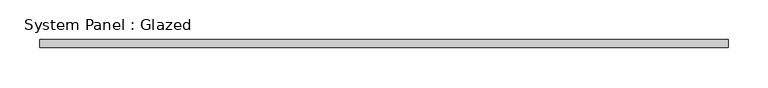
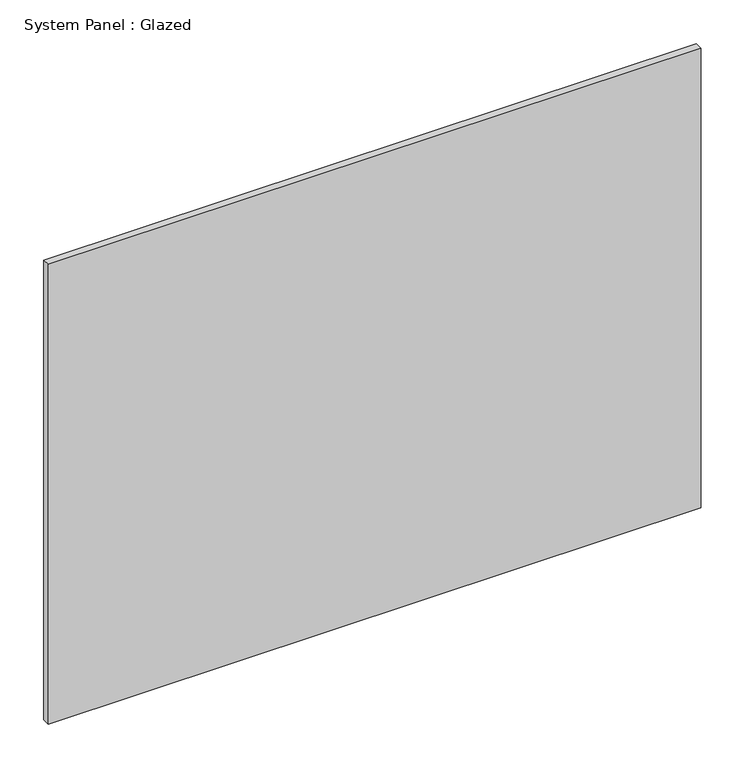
"""IFC4 building model written with IfcOpenShell, lengths in millimetres: plate geometry, System Panel : Glazed."""

from ifc_helpers import new_model, si_unit, origin, origin_with_axes, place, context, project, spatial, polyline, outline, extrude, source, transform, mapped, element, save


def system_panel_glazed_04eec869(model_context):
    return source(origin(), model_context, "Body", "SweptSolid", [
        extrude(outline(polyline([(430.0000001, -5.0), (-430.0000001, -5.0), (-430.0000001, 5.0), (430.0000001, 5.0), (430.0000001, -5.0)])), origin_with_axes(), (0.0, 0.0, 1.0), 640.0),
    ])


if __name__ == "__main__":
    model = new_model("IFC4")
    model_context = context("Model", 3, world=origin())
    ifc_project = project(units=[si_unit("LENGTHUNIT", "METRE", prefix="MILLI")], contexts=[model_context])
    site = spatial("IfcSite", under=ifc_project)
    building = spatial("IfcBuilding", under=site)
    placement = place(None, origin())
    system_panel_glazed_shape = system_panel_glazed_04eec869(model_context)
    element("IfcPlate", 1, ObjectType="System Panel : Glazed", at=placement, inside=building, context=model_context, shape_type="MappedRepresentation", body=[
        mapped(system_panel_glazed_shape, transform((0.0, 0.0, 0.0), x_axis=(1.0, 0.0, 0.0), y_axis=(0.0, 1.0, 0.0), z_axis=(0.0, 0.0, 1.0))),
    ])
    save(model, "model.ifc")
